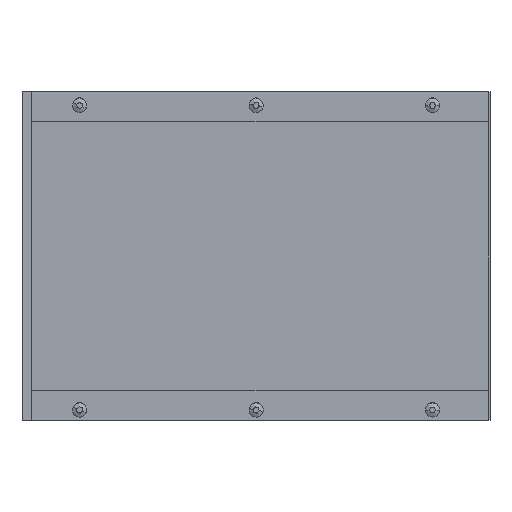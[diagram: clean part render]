
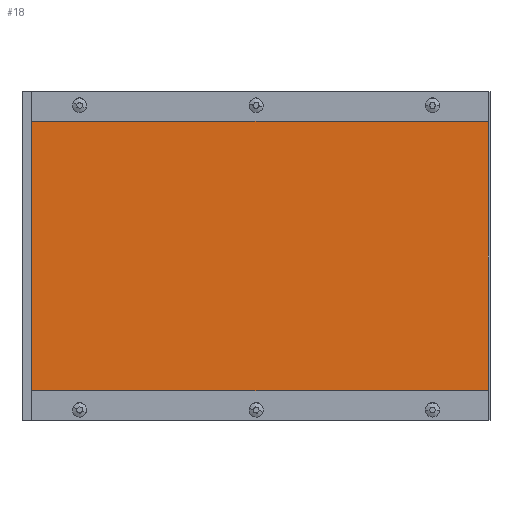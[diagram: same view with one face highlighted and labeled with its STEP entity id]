
A CAD part, front view. The second image highlights one B-rep face of the part: STEP entity #18.
In plain terms, the highlighted planar face has unit normal (0, -1, 0).
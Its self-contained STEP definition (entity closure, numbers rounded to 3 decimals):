
#18 = ADVANCED_FACE ( 'NONE', ( #2971 ), #975, .F. ) ;
#113 = EDGE_CURVE ( 'NONE', #4052, #913, #137, .T. ) ;
#137 = LINE ( 'NONE', #1514, #331 ) ;
#331 = VECTOR ( 'NONE', #3447, 1000. ) ;
#709 = VECTOR ( 'NONE', #1692, 1000. ) ;
#898 = DIRECTION ( 'NONE',  ( -1., 0., 0. ) ) ;
#913 = VERTEX_POINT ( 'NONE', #1935 ) ;
#967 = EDGE_CURVE ( 'NONE', #2758, #1670, #2522, .T. ) ;
#975 = PLANE ( 'NONE',  #1983 ) ;
#1295 = DIRECTION ( 'NONE',  ( 0., 0., 1. ) ) ;
#1440 = ORIENTED_EDGE ( 'NONE', *, *, #967, .T. ) ;
#1513 = EDGE_LOOP ( 'NONE', ( #2016, #2996, #1706, #1440 ) ) ;
#1514 = CARTESIAN_POINT ( 'NONE',  ( -6.6, 61.1, 279. ) ) ;
#1528 = CARTESIAN_POINT ( 'NONE',  ( 388.6, 61.1, 279. ) ) ;
#1601 = DIRECTION ( 'NONE',  ( 0., 0., 1. ) ) ;
#1670 = VERTEX_POINT ( 'NONE', #2505 ) ;
#1692 = DIRECTION ( 'NONE',  ( -1., 0., 0. ) ) ;
#1706 = ORIENTED_EDGE ( 'NONE', *, *, #2414, .F. ) ;
#1852 = EDGE_CURVE ( 'NONE', #1670, #4052, #3113, .T. ) ;
#1934 = CARTESIAN_POINT ( 'NONE',  ( -8., 61.1, 279. ) ) ;
#1935 = CARTESIAN_POINT ( 'NONE',  ( -6.6, 61.1, 25. ) ) ;
#1983 = AXIS2_PLACEMENT_3D ( 'NONE', #1934, #3675, #1295 ) ;
#2016 = ORIENTED_EDGE ( 'NONE', *, *, #1852, .T. ) ;
#2414 = EDGE_CURVE ( 'NONE', #2758, #913, #2986, .T. ) ;
#2505 = CARTESIAN_POINT ( 'NONE',  ( 388.6, 61.1, 254. ) ) ;
#2522 = LINE ( 'NONE', #1528, #4409 ) ;
#2758 = VERTEX_POINT ( 'NONE', #3943 ) ;
#2971 = FACE_OUTER_BOUND ( 'NONE', #1513, .T. ) ;
#2986 = LINE ( 'NONE', #4108, #4430 ) ;
#2996 = ORIENTED_EDGE ( 'NONE', *, *, #113, .T. ) ;
#3113 = LINE ( 'NONE', #4496, #709 ) ;
#3447 = DIRECTION ( 'NONE',  ( 0., 0., -1. ) ) ;
#3623 = CARTESIAN_POINT ( 'NONE',  ( -6.6, 61.1, 254. ) ) ;
#3675 = DIRECTION ( 'NONE',  ( 0., 1., 0. ) ) ;
#3943 = CARTESIAN_POINT ( 'NONE',  ( 388.6, 61.1, 25. ) ) ;
#4052 = VERTEX_POINT ( 'NONE', #3623 ) ;
#4108 = CARTESIAN_POINT ( 'NONE',  ( -8., 61.1, 25. ) ) ;
#4409 = VECTOR ( 'NONE', #1601, 1000. ) ;
#4430 = VECTOR ( 'NONE', #898, 1000. ) ;
#4496 = CARTESIAN_POINT ( 'NONE',  ( 0., 61.1, 254. ) ) ;
